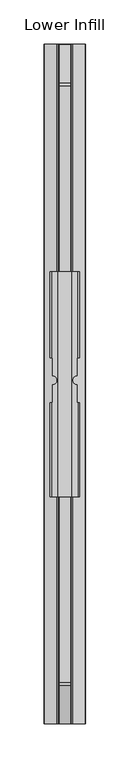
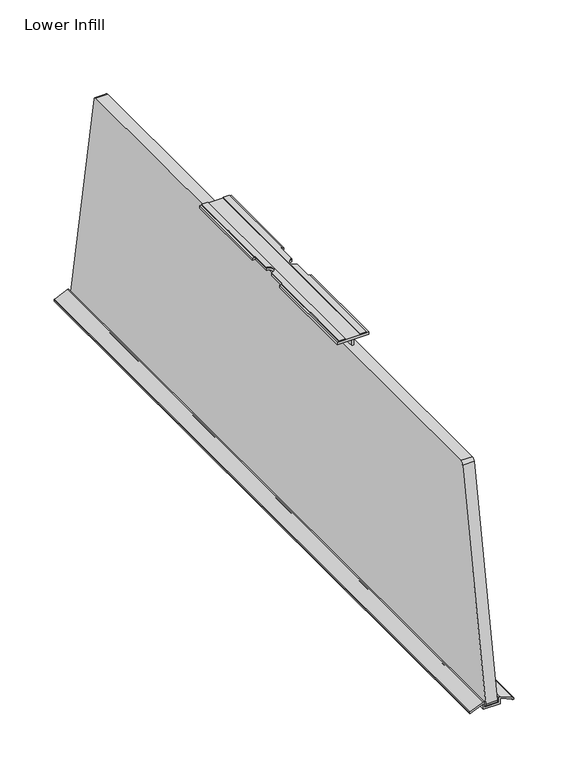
"""IFC4 building model written with IfcOpenShell, lengths in millimetres: furniture geometry, Steelcase Turnstone - Bivi - Arch - Infill : Lower Infill."""

from ifc_helpers import new_model, si_unit, point, frame, frame_2d, origin, place, context, project, spatial, polyline, circle_curve, trimmed, segment, composite_curve, outline, extrude, source, transform, mapped, element, save


def lower_infill_5093e7bb(model_context):
    return source(origin(), model_context, "Body", "SweptSolid", [
        extrude(outline(composite_curve([segment(polyline([(727.3045256, 16.8483173), (733.4053549, 16.8483173), (733.4053549, 15.6367634), (727.4498521, 1.4984313)]), True, "CONTINUOUS"), segment(trimmed(circle_curve(frame_2d((726.6441842, 1.8378035)), 0.8742278), [point((727.4498521, 1.4984313))], [point((726.6136741, 0.9641082))], False, "CARTESIAN"), True, "CONTINUOUS"), segment(polyline([(726.6136741, 0.9641082), (725.277944, 1.010753), (725.277944, 2.4550533), (725.9838615, 2.8463498), (731.3938797, 14.7924092)]), True, "CONTINUOUS"), segment(trimmed(circle_curve(frame_2d((731.0151616, 14.9639195)), 0.4157442), [point((731.3938797, 14.7924092))], [point((731.0151616, 15.3796636))], True, "CARTESIAN"), True, "CONTINUOUS"), segment(polyline([(731.0151616, 15.3796636), (725.5318529, 15.3796636), (725.5318529, 33.7439364), (731.0151616, 33.7439364)]), True, "CONTINUOUS"), segment(trimmed(circle_curve(frame_2d((731.0151616, 34.1596805)), 0.4157442), [point((731.0151616, 33.7439364))], [point((731.3938797, 34.3311908))], True, "CARTESIAN"), True, "CONTINUOUS"), segment(polyline([(731.3938797, 34.3311908), (725.9838615, 46.2772502), (725.277944, 46.6685467), (725.277944, 48.112847), (726.6136741, 48.1594918)]), True, "CONTINUOUS"), segment(trimmed(circle_curve(frame_2d((726.6441842, 47.2857965)), 0.8742278), [point((726.6136741, 48.1594918))], [point((727.4498521, 47.6251687))], False, "CARTESIAN"), True, "CONTINUOUS"), segment(polyline([(727.4498521, 47.6251687), (733.4053549, 33.4868366), (733.4053549, 32.0768452), (727.3045256, 32.0768452), (727.3045256, 16.8483173)]), True, "CONTINUOUS")], self_intersect=False)), frame((0.0, 152.879554, 0.0), z_axis=(0.0, 1.0, 0.0), x_axis=(0.0, 0.0, 1.0)), (0.0, 0.0, 1.0), 768.0875409),
        extrude(outline(composite_curve([segment(trimmed(circle_curve(frame_2d((917.3645184, 729.5526798)), 2.8936428), [point((920.2142002, 730.0551556))], [point((917.3645184, 726.659037))], False, "CARTESIAN"), True, "CONTINUOUS"), segment(polyline([(917.3645184, 726.659037), (155.9601618, 726.659037)]), True, "CONTINUOUS"), segment(trimmed(circle_curve(frame_2d((155.9601618, 729.754317)), 3.09528), [point((155.9601618, 726.659037))], [point((152.9119061, 730.2918067))], False, "CARTESIAN"), True, "CONTINUOUS"), segment(polyline([(152.9119061, 730.2918067), (195.8310801, 973.6985377)]), True, "CONTINUOUS"), segment(trimmed(circle_curve(frame_2d((199.6557449, 973.0241461)), 3.8836664), [point((195.8310801, 973.6985377))], [point((199.6557449, 976.9078125))], False, "CARTESIAN"), True, "CONTINUOUS"), segment(polyline([(199.6557449, 976.9078125), (873.5849639, 976.9078125)]), True, "CONTINUOUS"), segment(trimmed(circle_curve(frame_2d((873.5849639, 973.2104534)), 3.6973591), [point((873.5849639, 976.9078125))], [point((877.2261518, 973.8524931))], False, "CARTESIAN"), True, "CONTINUOUS"), segment(polyline([(877.2261518, 973.8524931), (920.2142002, 730.0551556)]), True, "CONTINUOUS")], self_intersect=False)), frame((18.3377491, 0.0, 0.0), z_axis=(1.0, 0.0, 0.0), x_axis=(0.0, 1.0, 0.0)), (0.0, 0.0, 1.0), 12.4475211),
        extrude(outline(composite_curve([segment(polyline([(38.3158444, 566.4459443), (38.3158444, 546.0869541)]), True, "CONTINUOUS"), segment(trimmed(circle_curve(frame_2d((38.3158444, 541.0283867)), 5.0585674), [point((38.3158444, 546.0869541))], [point((38.3158444, 535.9698193))], True, "CARTESIAN"), True, "CONTINUOUS"), segment(polyline([(38.3158444, 535.9698193), (38.3158444, 515.5348269), (39.1647369, 515.5348269), (39.1647369, 409.6367799), (32.7531582, 409.6367799), (32.7531582, 663.6370706), (39.1013415, 663.6370706), (39.1013415, 566.4459443), (38.3158444, 566.4459443)]), True, "CONTINUOUS")], self_intersect=False)), frame((0.0, 0.0, 986.5171097), z_axis=(0.0, 0.0, 1.0), x_axis=(1.0, 0.0, 0.0)), (0.0, 0.0, 1.0), 1.0160233),
        extrude(outline(composite_curve([segment(polyline([(10.8077556, 566.4459443), (10.0222585, 566.4459443), (10.0222585, 663.6369737), (16.3704418, 663.6369737), (16.3704418, 409.6367799), (9.9588631, 409.6367799), (9.9588631, 515.5348269), (10.8077556, 515.5348269), (10.8077556, 535.9698193)]), True, "CONTINUOUS"), segment(trimmed(circle_curve(frame_2d((10.8077556, 541.0283867)), 5.0585674), [point((10.8077556, 535.9698193))], [point((10.8077556, 546.0869541))], True, "CARTESIAN"), True, "CONTINUOUS"), segment(polyline([(10.8077556, 546.0869541), (10.8077556, 566.4459443)]), True, "CONTINUOUS")], self_intersect=False)), frame((0.0, 0.0, 986.5171097), z_axis=(0.0, 0.0, 1.0), x_axis=(1.0, 0.0, 0.0)), (0.0, 0.0, 1.0), 1.0160233),
        extrude(outline(composite_curve([segment(polyline([(41.3835302, 663.6366619), (41.3835302, 566.4459443), (38.3158444, 566.4459443), (38.3158444, 546.0869541)]), True, "CONTINUOUS"), segment(trimmed(circle_curve(frame_2d((38.3158444, 541.0283867)), 5.0585674), [point((38.3158444, 546.0869541))], [point((38.3158444, 535.9698193))], True, "CARTESIAN"), True, "CONTINUOUS"), segment(polyline([(38.3158444, 535.9698193), (38.3158444, 515.5348269), (41.3835302, 515.5348269), (41.3835302, 409.6370916), (7.7400698, 409.6370916), (7.7400698, 515.5348269), (10.8077556, 515.5348269), (10.8077556, 535.9698193)]), True, "CONTINUOUS"), segment(trimmed(circle_curve(frame_2d((10.8077556, 541.0283867)), 5.0585674), [point((10.8077556, 535.9698193))], [point((10.8077556, 546.0869541))], True, "CARTESIAN"), True, "CONTINUOUS"), segment(polyline([(10.8077556, 546.0869541), (10.8077556, 566.4459443), (7.8735207, 566.4459443), (7.8735207, 663.6366619), (41.3835302, 663.6366619)]), True, "CONTINUOUS")], self_intersect=False)), frame((0.0, 0.0, 983.9771484), z_axis=(0.0, 0.0, 1.0), x_axis=(1.0, 0.0, 0.0)), (0.0, 0.0, 1.0), 2.5399612),
        extrude(outline(polyline([(983.9771484, 23.4223899), (974.5452327, 23.4223899), (972.2960062, 23.8189892), (972.2960062, 25.3790737), (974.640298, 25.8347578), (983.9771484, 25.8347578), (983.9771484, 23.4223899)])), frame((0.0, 409.6384479, 0.0), z_axis=(0.0, 1.0, 0.0), x_axis=(0.0, 0.0, 1.0)), (0.0, 0.0, 1.0), 253.9968578),
    ])


if __name__ == "__main__":
    model = new_model("IFC4")
    model_context = context("Model", 3, world=origin())
    ifc_project = project(units=[si_unit("LENGTHUNIT", "METRE", prefix="MILLI")], contexts=[model_context])
    site = spatial("IfcSite", under=ifc_project)
    building = spatial("IfcBuilding", under=site)
    placement = place(None, origin())
    lower_infill_shape = lower_infill_5093e7bb(model_context)
    element("IfcFurniture", 1, ObjectType="Steelcase Turnstone - Bivi - Arch - Infill : Lower Infill", at=placement, inside=building, context=model_context, shape_type="MappedRepresentation", body=[
        mapped(lower_infill_shape, transform((0.0, 0.0, 0.0), x_axis=(1.0, 0.0, 0.0), y_axis=(0.0, 1.0, 0.0), z_axis=(0.0, 0.0, 1.0))),
    ])
    save(model, "model.ifc")
